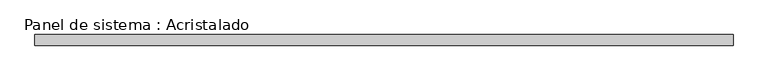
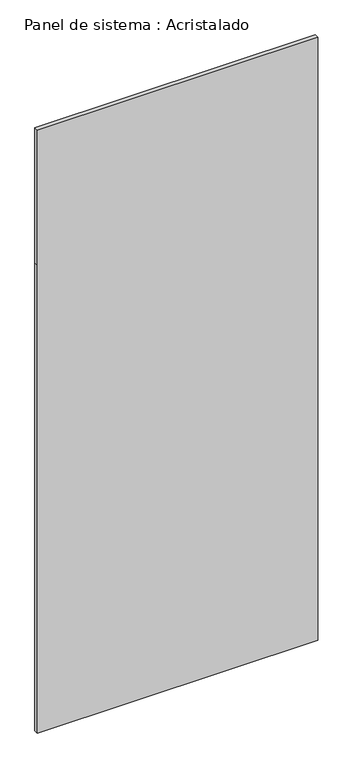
"""IFC4 building model written with IfcOpenShell, lengths in millimetres: plate geometry, Panel de sistema : Acristalado."""

from ifc_helpers import new_model, si_unit, frame, origin, place, context, project, spatial, polyline, outline, extrude, source, transform, mapped, element, save


def panel_de_sistema_acristalado_3683847e(model_context):
    return source(origin(), model_context, "Body", "SweptSolid", [
        extrude(outline(polyline([(0.0, -637.5305422), (0.0, 637.5305422), (2250.0, 637.5305422), (2900.0, 637.5305422), (2900.0, -637.5305422), (2250.0, -637.5305422), (0.0, -637.5305422)])), frame((0.0, -10.0, 0.0), z_axis=(0.0, 1.0, 0.0), x_axis=(0.0, 0.0, 1.0)), (0.0, 0.0, 1.0), 20.0),
    ])


if __name__ == "__main__":
    model = new_model("IFC4")
    model_context = context("Model", 3, world=origin())
    ifc_project = project(units=[si_unit("LENGTHUNIT", "METRE", prefix="MILLI")], contexts=[model_context])
    site = spatial("IfcSite", under=ifc_project)
    building = spatial("IfcBuilding", under=site)
    placement = place(None, origin())
    panel_de_sistema_acristalado_shape = panel_de_sistema_acristalado_3683847e(model_context)
    element("IfcPlate", 1, ObjectType="Panel de sistema : Acristalado", at=placement, inside=building, context=model_context, shape_type="MappedRepresentation", body=[
        mapped(panel_de_sistema_acristalado_shape, transform((0.0, 0.0, 0.0), x_axis=(1.0, 0.0, 0.0), y_axis=(0.0, 1.0, 0.0), z_axis=(0.0, 0.0, 1.0))),
    ])
    save(model, "model.ifc")
